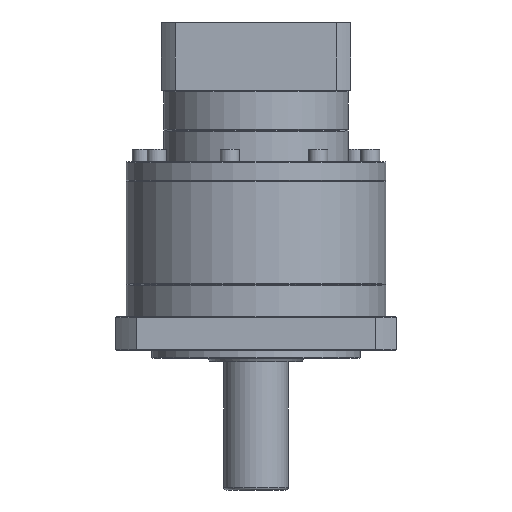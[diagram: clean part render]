
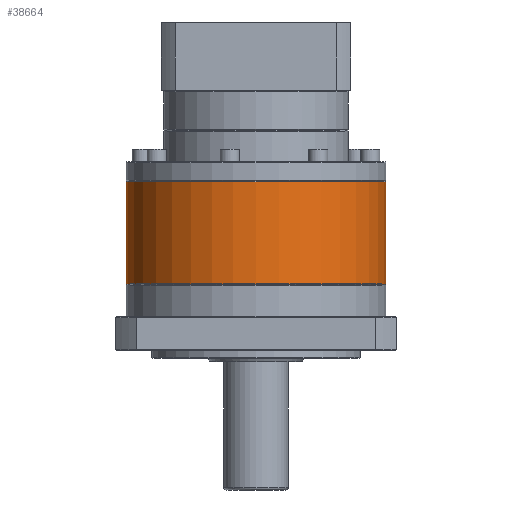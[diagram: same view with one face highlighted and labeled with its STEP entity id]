
A CAD part, front view. The second image highlights one B-rep face of the part: STEP entity #38664.
In plain terms, the highlighted cylindrical face has radius 81 mm (diameter 162 mm), a partial arc.
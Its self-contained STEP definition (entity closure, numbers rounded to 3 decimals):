
#314 = VERTEX_POINT ( 'NONE', #61155 ) ;
#3944 = AXIS2_PLACEMENT_3D ( 'NONE', #97604, #33644, #40877 ) ;
#4569 = DIRECTION ( 'NONE',  ( 0., 0., 1. ) ) ;
#5296 = EDGE_CURVE ( 'NONE', #25246, #78854, #91870, .T. ) ;
#8176 = ORIENTED_EDGE ( 'NONE', *, *, #83999, .T. ) ;
#8238 = LINE ( 'NONE', #8279, #21200 ) ;
#8279 = CARTESIAN_POINT ( 'NONE',  ( -198.886, 57.452, -88.44 ) ) ;
#9707 = AXIS2_PLACEMENT_3D ( 'NONE', #89160, #89879, #89518 ) ;
#13963 = ORIENTED_EDGE ( 'NONE', *, *, #34333, .T. ) ;
#19435 = DIRECTION ( 'NONE',  ( -1., 0., 0. ) ) ;
#21200 = VECTOR ( 'NONE', #49383, 1000. ) ;
#21608 = EDGE_LOOP ( 'NONE', ( #94790, #13963, #100160, #8176 ) ) ;
#25246 = VERTEX_POINT ( 'NONE', #43848 ) ;
#28213 = AXIS2_PLACEMENT_3D ( 'NONE', #53990, #4569, #19435 ) ;
#29164 = CIRCLE ( 'NONE', #9707, 81. ) ;
#30588 = CIRCLE ( 'NONE', #28213, 81. ) ;
#31166 = VECTOR ( 'NONE', #85060, 1000. ) ;
#33443 = CARTESIAN_POINT ( 'NONE',  ( -36.886, 57.452, -152.44 ) ) ;
#33644 = DIRECTION ( 'NONE',  ( 0., 0., -1. ) ) ;
#34333 = EDGE_CURVE ( 'NONE', #25246, #93729, #29164, .T. ) ;
#38664 = ADVANCED_FACE ( 'NONE', ( #78829 ), #44462, .T. ) ;
#40877 = DIRECTION ( 'NONE',  ( -1., 0., 0. ) ) ;
#41906 = CARTESIAN_POINT ( 'NONE',  ( -198.886, 57.452, -88.94 ) ) ;
#43848 = CARTESIAN_POINT ( 'NONE',  ( -36.886, 57.452, -88.94 ) ) ;
#44462 = CYLINDRICAL_SURFACE ( 'NONE', #3944, 81. ) ;
#49383 = DIRECTION ( 'NONE',  ( 0., 0., -1. ) ) ;
#53990 = CARTESIAN_POINT ( 'NONE',  ( -117.886, 57.452, -152.44 ) ) ;
#61155 = CARTESIAN_POINT ( 'NONE',  ( -198.886, 57.452, -152.44 ) ) ;
#76329 = CARTESIAN_POINT ( 'NONE',  ( -36.886, 57.452, -88.44 ) ) ;
#78829 = FACE_OUTER_BOUND ( 'NONE', #21608, .T. ) ;
#78854 = VERTEX_POINT ( 'NONE', #33443 ) ;
#83999 = EDGE_CURVE ( 'NONE', #314, #78854, #30588, .T. ) ;
#85060 = DIRECTION ( 'NONE',  ( 0., 0., -1. ) ) ;
#85264 = EDGE_CURVE ( 'NONE', #93729, #314, #8238, .T. ) ;
#89160 = CARTESIAN_POINT ( 'NONE',  ( -117.886, 57.452, -88.94 ) ) ;
#89518 = DIRECTION ( 'NONE',  ( -1., 0., 0. ) ) ;
#89879 = DIRECTION ( 'NONE',  ( 0., 0., -1. ) ) ;
#91870 = LINE ( 'NONE', #76329, #31166 ) ;
#93729 = VERTEX_POINT ( 'NONE', #41906 ) ;
#94790 = ORIENTED_EDGE ( 'NONE', *, *, #5296, .F. ) ;
#97604 = CARTESIAN_POINT ( 'NONE',  ( -117.886, 57.452, -88.44 ) ) ;
#100160 = ORIENTED_EDGE ( 'NONE', *, *, #85264, .T. ) ;
